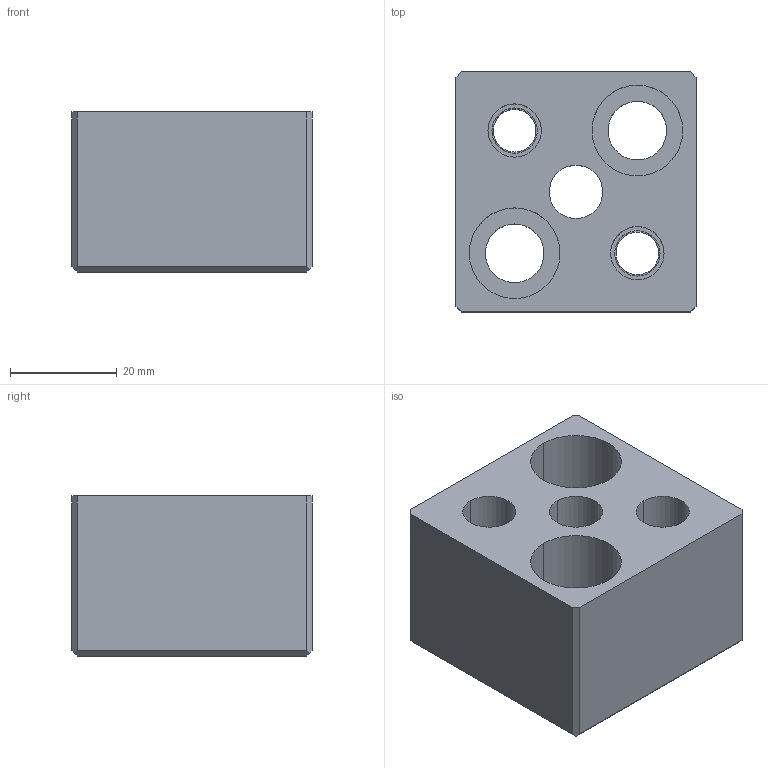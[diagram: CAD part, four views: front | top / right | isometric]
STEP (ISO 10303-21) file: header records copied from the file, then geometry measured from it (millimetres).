
FILE_DESCRIPTION(/* description */ (''),/* implementation_level */ '2;1');
FILE_NAME(/* name */ '3d_sa-an10_05036_r00.stp',/* time_stamp */ '2011-01-10T14:11:30+09:00',/* author */ ('MISUMI'),/* organization */ (''),/* preprocessor_version */ 'ST-DEVELOPER v11',/* originating_system */ 'UGS - NX 5.0',/* authorisation */ '');
FILE_SCHEMA (('CONFIG_CONTROL_DESIGN'));
Length unit declared in the file: millimetre
Products named in the file (1): 3d_sa-an10_05036_r00
Bounding box: 45 x 45 x 30 mm (x, y, z)
Volume: 44529 mm3; surface area: 13827.3 mm2
Topology: 1 solids, 1 shells, 47 faces, 112 edges, 74 vertices
Faces by surface type: cylinder 24, plane 21, cone 2
Entity records: 1486 total; most frequent: DIRECTION 258, CARTESIAN_POINT 234, ORIENTED_EDGE 224, EDGE_CURVE 112, AXIS2_PLACEMENT_3D 98, VERTEX_POINT 74, EDGE_LOOP 64, LINE 62
